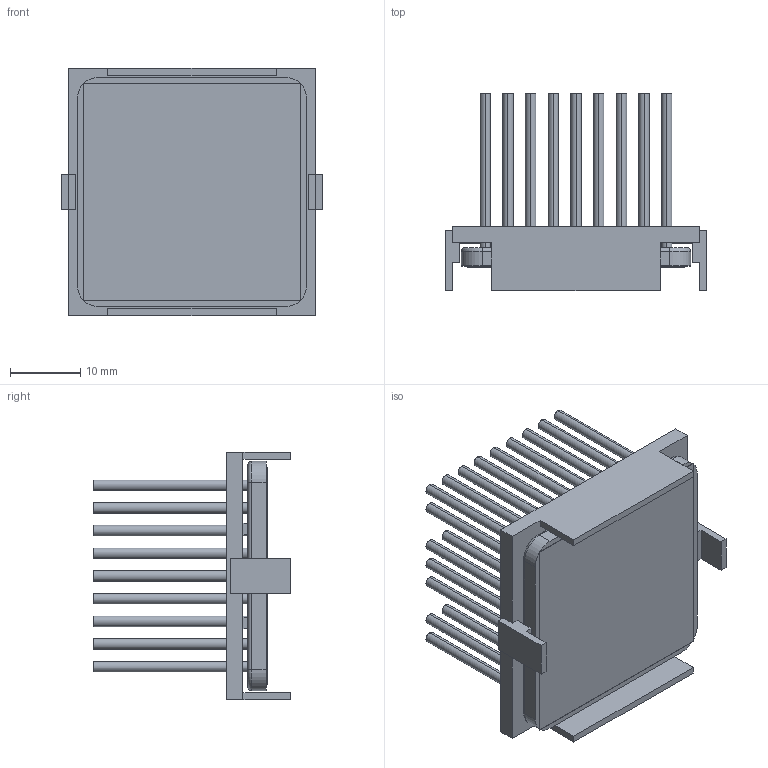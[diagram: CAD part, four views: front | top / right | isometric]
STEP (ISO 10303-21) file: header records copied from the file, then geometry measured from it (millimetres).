
FILE_DESCRIPTION (( 'STEP AP214' ), '1' );
FILE_NAME ('INM33002-25P-2.6Y.STEP', '2023-03-02T20:09:39', ( '' ), ( '' ), 'SwSTEP 2.0', 'SolidWorks 2020', '' );
FILE_SCHEMA (( 'AUTOMOTIVE_DESIGN' ));
Length unit declared in the file: inch
Products named in the file (1): INM33002-25P-2.6Y
Bounding box: 37.2 x 28.1 x 35.2 mm (x, y, z)
Volume: 7278.8 mm3; surface area: 14492.4 mm2
Topology: 3 solids, 3 shells, 301 faces, 658 edges, 436 vertices
Faces by surface type: cylinder 154, plane 143, torus 4
Entity records: 12339 total; most frequent: DIRECTION 1574, CARTESIAN_POINT 1396, ORIENTED_EDGE 1316, EDGE_CURVE 658, AXIS2_PLACEMENT_3D 614, VERTEX_POINT 436, EDGE_LOOP 376, LINE 346
